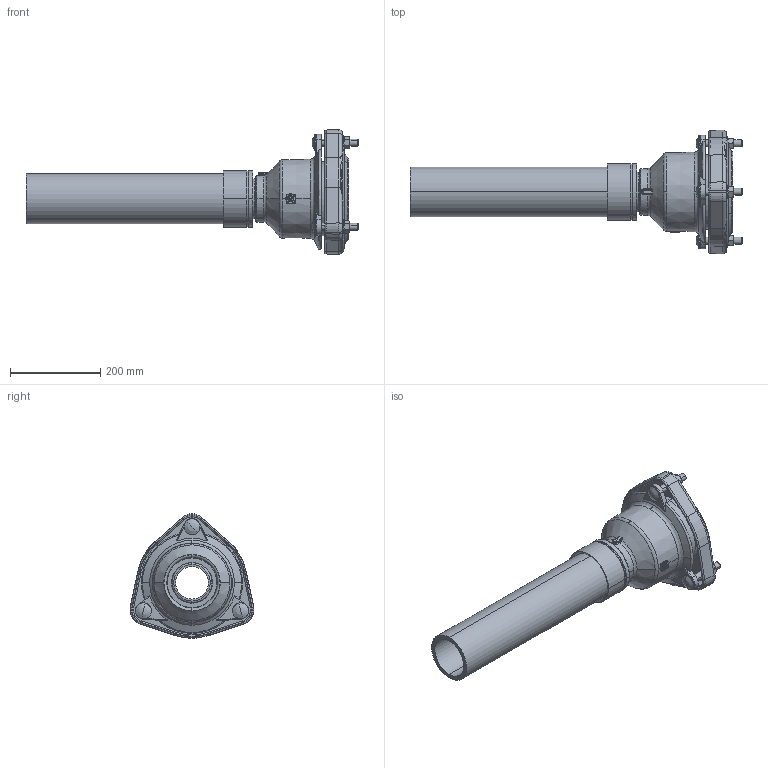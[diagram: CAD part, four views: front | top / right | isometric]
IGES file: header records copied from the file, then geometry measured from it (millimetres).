
Global section: file name: No Iges File Name specified; native system: AutoDesk Inventor R12.0; preprocessor: AutoDesk Inventor Iges Exporter R12.0; date: 20120509.101700; units: millimetre
Bounding box: 734.42 x 274.22 x 275.21 mm (x, y, z)
Volume: 3269662.7 mm3; surface area: 782319.7 mm2
Topology: 1 solids, 1 shells, 561 faces, 1455 edges, 919 vertices
Faces by surface type: plane 151, cylinder 114, revolution 86, cone 79, torus 71, bspline 60
